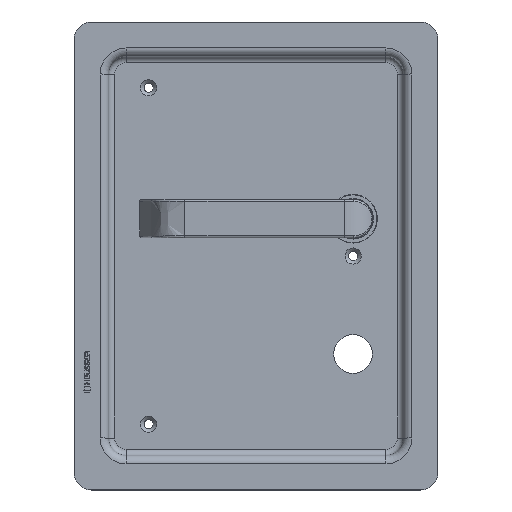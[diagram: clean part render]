
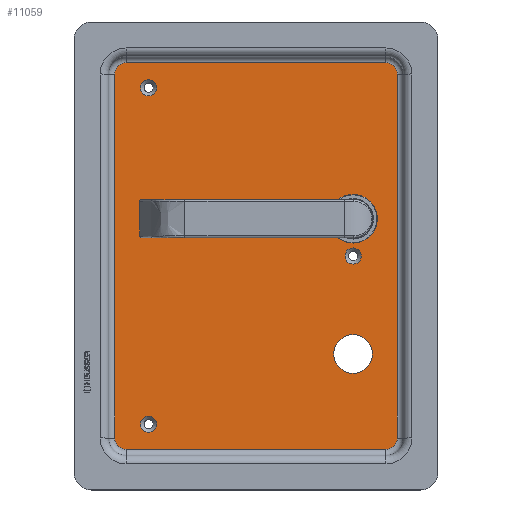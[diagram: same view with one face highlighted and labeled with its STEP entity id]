
A CAD part, top view. The second image highlights one B-rep face of the part: STEP entity #11059.
In plain terms, the highlighted planar face has unit normal (0, 0, 1).
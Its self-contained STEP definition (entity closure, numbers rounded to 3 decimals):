
#720=LINE('',#14777,#1673);
#721=LINE('',#14785,#1674);
#722=LINE('',#14795,#1675);
#725=LINE('',#14807,#1678);
#1673=VECTOR('',#12498,10.);
#1674=VECTOR('',#12509,10.);
#1675=VECTOR('',#12522,10.);
#1678=VECTOR('',#12537,10.);
#2679=FACE_BOUND('',#3618,.T.);
#2680=FACE_BOUND('',#3619,.T.);
#2681=FACE_BOUND('',#3620,.T.);
#2682=FACE_BOUND('',#3621,.T.);
#2683=FACE_BOUND('',#3622,.T.);
#2970=FACE_OUTER_BOUND('',#3617,.T.);
#3617=EDGE_LOOP('',(#7993,#7994,#7995,#7996,#7997,#7998,#7999,#8000));
#3618=EDGE_LOOP('',(#8001));
#3619=EDGE_LOOP('',(#8002));
#3620=EDGE_LOOP('',(#8003));
#3621=EDGE_LOOP('',(#8004));
#3622=EDGE_LOOP('',(#8005));
#4137=CIRCLE('',#11592,6.5);
#4140=CIRCLE('',#11597,6.5);
#4143=CIRCLE('',#11602,6.5);
#4147=CIRCLE('',#11608,6.5);
#4170=CIRCLE('',#11758,4.65);
#4171=CIRCLE('',#11760,4.65);
#4172=CIRCLE('',#11762,14.);
#4173=CIRCLE('',#11763,11.15);
#4174=CIRCLE('',#11764,4.65);
#4353=VERTEX_POINT('',#14770);
#4354=VERTEX_POINT('',#14772);
#4355=VERTEX_POINT('',#14776);
#4356=VERTEX_POINT('',#14780);
#4357=VERTEX_POINT('',#14784);
#4358=VERTEX_POINT('',#14788);
#4360=VERTEX_POINT('',#14794);
#4362=VERTEX_POINT('',#14800);
#4640=VERTEX_POINT('',#16362);
#4641=VERTEX_POINT('',#16365);
#4642=VERTEX_POINT('',#16368);
#4643=VERTEX_POINT('',#16370);
#4644=VERTEX_POINT('',#16372);
#5429=EDGE_CURVE('',#4354,#4353,#4137,.T.);
#5431=EDGE_CURVE('',#4355,#4354,#720,.T.);
#5433=EDGE_CURVE('',#4356,#4355,#4140,.T.);
#5435=EDGE_CURVE('',#4357,#4356,#721,.T.);
#5437=EDGE_CURVE('',#4358,#4357,#4143,.T.);
#5440=EDGE_CURVE('',#4360,#4358,#722,.T.);
#5443=EDGE_CURVE('',#4362,#4360,#4147,.T.);
#5447=EDGE_CURVE('',#4353,#4362,#725,.T.);
#5868=EDGE_CURVE('',#4640,#4640,#4170,.T.);
#5869=EDGE_CURVE('',#4641,#4641,#4171,.T.);
#5870=EDGE_CURVE('',#4642,#4642,#4172,.T.);
#5871=EDGE_CURVE('',#4643,#4643,#4173,.T.);
#5872=EDGE_CURVE('',#4644,#4644,#4174,.T.);
#7993=ORIENTED_EDGE('',*,*,#5447,.T.);
#7994=ORIENTED_EDGE('',*,*,#5443,.T.);
#7995=ORIENTED_EDGE('',*,*,#5440,.T.);
#7996=ORIENTED_EDGE('',*,*,#5437,.T.);
#7997=ORIENTED_EDGE('',*,*,#5435,.T.);
#7998=ORIENTED_EDGE('',*,*,#5433,.T.);
#7999=ORIENTED_EDGE('',*,*,#5431,.T.);
#8000=ORIENTED_EDGE('',*,*,#5429,.T.);
#8001=ORIENTED_EDGE('',*,*,#5870,.T.);
#8002=ORIENTED_EDGE('',*,*,#5871,.T.);
#8003=ORIENTED_EDGE('',*,*,#5869,.F.);
#8004=ORIENTED_EDGE('',*,*,#5868,.F.);
#8005=ORIENTED_EDGE('',*,*,#5872,.F.);
#10033=PLANE('',#11761);
#11059=ADVANCED_FACE('',(#2970,#2679,#2680,#2681,#2682,#2683),#10033,.F.);
#11592=AXIS2_PLACEMENT_3D('',#14773,#12492,#12493);
#11597=AXIS2_PLACEMENT_3D('',#14781,#12503,#12504);
#11602=AXIS2_PLACEMENT_3D('',#14789,#12514,#12515);
#11608=AXIS2_PLACEMENT_3D('',#14801,#12528,#12529);
#11758=AXIS2_PLACEMENT_3D('',#16363,#13108,#13109);
#11760=AXIS2_PLACEMENT_3D('',#16366,#13112,#13113);
#11761=AXIS2_PLACEMENT_3D('',#16367,#13114,#13115);
#11762=AXIS2_PLACEMENT_3D('',#16369,#13116,#13117);
#11763=AXIS2_PLACEMENT_3D('',#16371,#13118,#13119);
#11764=AXIS2_PLACEMENT_3D('',#16373,#13120,#13121);
#12492=DIRECTION('center_axis',(0.,0.,
1.));
#12493=DIRECTION('ref_axis',(-0.707,-0.707,0.));
#12498=DIRECTION('',(0.,-1.,0.));
#12503=DIRECTION('center_axis',(0.,0.,
1.));
#12504=DIRECTION('ref_axis',(-0.707,0.707,0.));
#12509=DIRECTION('',(-1.,0.,0.));
#12514=DIRECTION('center_axis',(0.,0.,
1.));
#12515=DIRECTION('ref_axis',(0.707,0.707,0.));
#12522=DIRECTION('',(0.,1.,0.));
#12528=DIRECTION('center_axis',(0.,0.,
1.));
#12529=DIRECTION('ref_axis',(0.707,-0.707,0.));
#12537=DIRECTION('',(1.,0.,0.));
#13108=DIRECTION('center_axis',(0.,0.,
1.));
#13109=DIRECTION('ref_axis',(-1.,0.,0.));
#13112=DIRECTION('center_axis',(0.,0.,
1.));
#13113=DIRECTION('ref_axis',(-1.,0.,0.));
#13114=DIRECTION('center_axis',(0.,0.,
-1.));
#13115=DIRECTION('ref_axis',(-1.,0.,0.));
#13116=DIRECTION('center_axis',(0.,0.,
-1.));
#13117=DIRECTION('ref_axis',(0.,1.,0.));
#13118=DIRECTION('center_axis',(0.,0.,
-1.));
#13119=DIRECTION('ref_axis',(-1.,0.,0.));
#13120=DIRECTION('center_axis',(0.,0.,
1.));
#13121=DIRECTION('ref_axis',(-1.,0.,0.));
#14770=CARTESIAN_POINT('',(-102.185,-90.141,-9.));
#14772=CARTESIAN_POINT('',(-108.685,-83.641,-9.));
#14773=CARTESIAN_POINT('Origin',(-102.185,-83.641,-9.));
#14776=CARTESIAN_POINT('',(-108.685,126.359,-9.));
#14777=CARTESIAN_POINT('',(-108.685,73.859,-9.));
#14780=CARTESIAN_POINT('',(-102.185,132.859,-9.));
#14781=CARTESIAN_POINT('Origin',(-102.185,126.359,-9.));
#14784=CARTESIAN_POINT('',(47.815,132.859,-9.));
#14785=CARTESIAN_POINT('',(10.315,132.859,-9.));
#14788=CARTESIAN_POINT('',(54.315,126.359,-9.));
#14789=CARTESIAN_POINT('Origin',(47.815,126.359,-9.));
#14794=CARTESIAN_POINT('',(54.315,-83.641,-9.));
#14795=CARTESIAN_POINT('',(54.315,-31.141,-9.));
#14800=CARTESIAN_POINT('',(47.815,-90.141,-9.));
#14801=CARTESIAN_POINT('Origin',(47.815,-83.641,-9.));
#14807=CARTESIAN_POINT('',(-64.685,-90.141,-9.));
#16362=CARTESIAN_POINT('',(33.465,21.359,-9.));
#16363=CARTESIAN_POINT('Origin',(28.815,21.359,-9.));
#16365=CARTESIAN_POINT('',(-84.535,-75.641,-9.));
#16366=CARTESIAN_POINT('Origin',(-89.185,-75.641,-9.));
#16367=CARTESIAN_POINT('Origin',(-27.185,21.359,-9.));
#16368=CARTESIAN_POINT('',(28.815,28.859,-9.));
#16369=CARTESIAN_POINT('Origin',(28.815,42.859,-9.));
#16370=CARTESIAN_POINT('',(39.965,-35.141,-9.));
#16371=CARTESIAN_POINT('Origin',(28.815,-35.141,-9.));
#16372=CARTESIAN_POINT('',(-84.535,118.359,-9.));
#16373=CARTESIAN_POINT('Origin',(-89.185,118.359,-9.));
